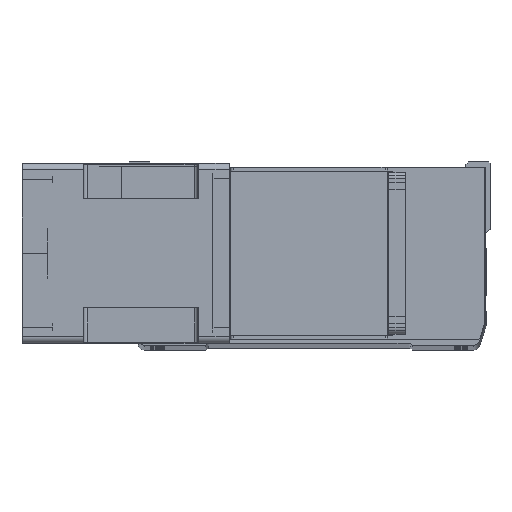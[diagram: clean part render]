
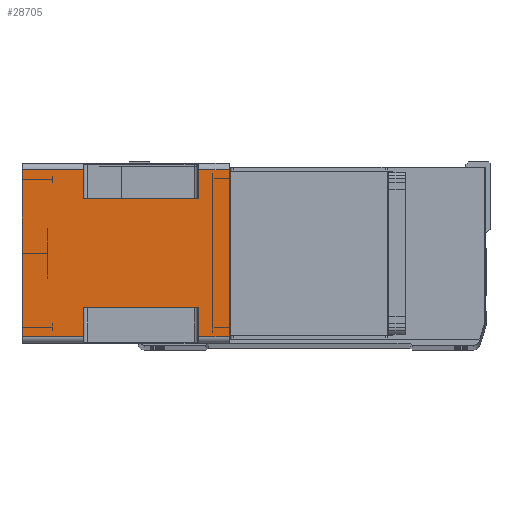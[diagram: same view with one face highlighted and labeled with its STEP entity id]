
A CAD part, top view. The second image highlights one B-rep face of the part: STEP entity #28705.
In plain terms, the highlighted planar face has unit normal (0, 0, 1) as drawn and (-1, 0, 0) by its records, which use the part's own axes.
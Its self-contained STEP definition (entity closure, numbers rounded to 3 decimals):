
#34 = EDGE_CURVE ( 'NONE', #45997, #17787, #4870, .T. ) ;
#88 = LINE ( 'NONE', #45881, #7906 ) ;
#259 = EDGE_CURVE ( 'NONE', #22364, #45997, #43636, .T. ) ;
#900 = CARTESIAN_POINT ( 'NONE',  ( -71., -66., -24.5 ) ) ;
#1049 = DIRECTION ( 'NONE',  ( 0., 0., 1. ) ) ;
#1589 = VECTOR ( 'NONE', #1049, 1000. ) ;
#2979 = FACE_OUTER_BOUND ( 'NONE', #44369, .T. ) ;
#3979 = CARTESIAN_POINT ( 'NONE',  ( -71., 43., -24.5 ) ) ;
#4165 = CARTESIAN_POINT ( 'NONE',  ( -71., 66., -164. ) ) ;
#4311 = CARTESIAN_POINT ( 'NONE',  ( -71., -66., -164. ) ) ;
#4870 = LINE ( 'NONE', #30519, #44712 ) ;
#5065 = VERTEX_POINT ( 'NONE', #37041 ) ;
#5089 = CARTESIAN_POINT ( 'NONE',  ( -71., 66., -164. ) ) ;
#5130 = VERTEX_POINT ( 'NONE', #8993 ) ;
#5201 = CARTESIAN_POINT ( 'NONE',  ( -71., -66., -164. ) ) ;
#6399 = ORIENTED_EDGE ( 'NONE', *, *, #24812, .T. ) ;
#6727 = EDGE_CURVE ( 'NONE', #16663, #28936, #28945, .T. ) ;
#7572 = CARTESIAN_POINT ( 'NONE',  ( -71., -66., -164. ) ) ;
#7627 = EDGE_CURVE ( 'NONE', #5065, #28936, #14464, .T. ) ;
#7759 = DIRECTION ( 'NONE',  ( 0., -1., 0. ) ) ;
#7766 = VECTOR ( 'NONE', #32670, 1000. ) ;
#7906 = VECTOR ( 'NONE', #42884, 1000. ) ;
#8072 = CARTESIAN_POINT ( 'NONE',  ( -71., -66., 0. ) ) ;
#8596 = LINE ( 'NONE', #5201, #39448 ) ;
#8993 = CARTESIAN_POINT ( 'NONE',  ( -71., 66., -24.5 ) ) ;
#9147 = CARTESIAN_POINT ( 'NONE',  ( -71., -66., 0. ) ) ;
#9158 = DIRECTION ( 'NONE',  ( 0., 0., 1. ) ) ;
#9221 = ORIENTED_EDGE ( 'NONE', *, *, #24683, .F. ) ;
#9853 = CARTESIAN_POINT ( 'NONE',  ( -71., -66., -115.5 ) ) ;
#10218 = DIRECTION ( 'NONE',  ( 0., -1., 0. ) ) ;
#10332 = VECTOR ( 'NONE', #14467, 1000. ) ;
#10602 = EDGE_CURVE ( 'NONE', #16663, #36301, #88, .T. ) ;
#11106 = AXIS2_PLACEMENT_3D ( 'NONE', #4311, #22388, #18747 ) ;
#11214 = LINE ( 'NONE', #5089, #17391 ) ;
#11996 = CARTESIAN_POINT ( 'NONE',  ( -71., -66., -115.5 ) ) ;
#13294 = VERTEX_POINT ( 'NONE', #21232 ) ;
#14464 = LINE ( 'NONE', #4165, #1589 ) ;
#14467 = DIRECTION ( 'NONE',  ( 0., 0., -1. ) ) ;
#15196 = ORIENTED_EDGE ( 'NONE', *, *, #21221, .F. ) ;
#16032 = DIRECTION ( 'NONE',  ( 0., 1., 0. ) ) ;
#16153 = VERTEX_POINT ( 'NONE', #8072 ) ;
#16305 = VECTOR ( 'NONE', #10218, 1000. ) ;
#16663 = VERTEX_POINT ( 'NONE', #35254 ) ;
#17129 = LINE ( 'NONE', #900, #22201 ) ;
#17391 = VECTOR ( 'NONE', #9158, 1000. ) ;
#17787 = VERTEX_POINT ( 'NONE', #23670 ) ;
#18294 = ORIENTED_EDGE ( 'NONE', *, *, #24142, .T. ) ;
#18747 = DIRECTION ( 'NONE',  ( 0., -1., 0. ) ) ;
#19401 = VECTOR ( 'NONE', #29756, 1000. ) ;
#19693 = ORIENTED_EDGE ( 'NONE', *, *, #10602, .F. ) ;
#20476 = DIRECTION ( 'NONE',  ( 0., 0., 1. ) ) ;
#21221 = EDGE_CURVE ( 'NONE', #5130, #34282, #11214, .T. ) ;
#21232 = CARTESIAN_POINT ( 'NONE',  ( -71., -43., -24.5 ) ) ;
#22201 = VECTOR ( 'NONE', #26158, 1000. ) ;
#22364 = VERTEX_POINT ( 'NONE', #25951 ) ;
#22388 = DIRECTION ( 'NONE',  ( -1., 0., 0. ) ) ;
#23274 = DIRECTION ( 'NONE',  ( 0., -1., 0. ) ) ;
#23670 = CARTESIAN_POINT ( 'NONE',  ( -71., -43., -115.5 ) ) ;
#23839 = LINE ( 'NONE', #39725, #10332 ) ;
#24110 = CARTESIAN_POINT ( 'NONE',  ( -71., -66., -164. ) ) ;
#24142 = EDGE_CURVE ( 'NONE', #13294, #28416, #17129, .T. ) ;
#24173 = LINE ( 'NONE', #9147, #16305 ) ;
#24683 = EDGE_CURVE ( 'NONE', #13294, #17787, #23839, .T. ) ;
#24812 = EDGE_CURVE ( 'NONE', #5130, #36301, #31653, .T. ) ;
#25951 = CARTESIAN_POINT ( 'NONE',  ( -71., -66., -164. ) ) ;
#26158 = DIRECTION ( 'NONE',  ( 0., -1., 0. ) ) ;
#26781 = ORIENTED_EDGE ( 'NONE', *, *, #43279, .T. ) ;
#28416 = VERTEX_POINT ( 'NONE', #45248 ) ;
#28705 = ADVANCED_FACE ( 'NONE', ( #2979 ), #40223, .T. ) ;
#28936 = VERTEX_POINT ( 'NONE', #31715 ) ;
#28945 = LINE ( 'NONE', #11996, #19401 ) ;
#29756 = DIRECTION ( 'NONE',  ( 0., 1., 0. ) ) ;
#30519 = CARTESIAN_POINT ( 'NONE',  ( -71., -43., -115.5 ) ) ;
#31653 = LINE ( 'NONE', #3979, #36636 ) ;
#31715 = CARTESIAN_POINT ( 'NONE',  ( -71., 66., -115.5 ) ) ;
#32670 = DIRECTION ( 'NONE',  ( 0., 0., 1. ) ) ;
#32749 = ORIENTED_EDGE ( 'NONE', *, *, #6727, .T. ) ;
#33604 = LINE ( 'NONE', #7572, #7766 ) ;
#34282 = VERTEX_POINT ( 'NONE', #38485 ) ;
#34665 = ORIENTED_EDGE ( 'NONE', *, *, #45591, .T. ) ;
#34680 = EDGE_CURVE ( 'NONE', #34282, #16153, #24173, .T. ) ;
#35254 = CARTESIAN_POINT ( 'NONE',  ( -71., 43., -115.5 ) ) ;
#36301 = VERTEX_POINT ( 'NONE', #39353 ) ;
#36636 = VECTOR ( 'NONE', #7759, 1000. ) ;
#36828 = ORIENTED_EDGE ( 'NONE', *, *, #34680, .F. ) ;
#37041 = CARTESIAN_POINT ( 'NONE',  ( -71., 66., -164. ) ) ;
#37990 = ORIENTED_EDGE ( 'NONE', *, *, #259, .T. ) ;
#38485 = CARTESIAN_POINT ( 'NONE',  ( -71., 66., 0. ) ) ;
#39353 = CARTESIAN_POINT ( 'NONE',  ( -71., 43., -24.5 ) ) ;
#39448 = VECTOR ( 'NONE', #23274, 1000. ) ;
#39725 = CARTESIAN_POINT ( 'NONE',  ( -71., -43., -164. ) ) ;
#40223 = PLANE ( 'NONE',  #11106 ) ;
#40945 = ORIENTED_EDGE ( 'NONE', *, *, #34, .T. ) ;
#42884 = DIRECTION ( 'NONE',  ( 0., 0., 1. ) ) ;
#43279 = EDGE_CURVE ( 'NONE', #5065, #22364, #8596, .T. ) ;
#43394 = ORIENTED_EDGE ( 'NONE', *, *, #7627, .F. ) ;
#43636 = LINE ( 'NONE', #24110, #45884 ) ;
#44369 = EDGE_LOOP ( 'NONE', ( #37990, #40945, #9221, #18294, #34665, #36828, #15196, #6399, #19693, #32749, #43394, #26781 ) ) ;
#44712 = VECTOR ( 'NONE', #16032, 1000. ) ;
#45248 = CARTESIAN_POINT ( 'NONE',  ( -71., -66., -24.5 ) ) ;
#45591 = EDGE_CURVE ( 'NONE', #28416, #16153, #33604, .T. ) ;
#45881 = CARTESIAN_POINT ( 'NONE',  ( -71., 43., -164. ) ) ;
#45884 = VECTOR ( 'NONE', #20476, 1000. ) ;
#45997 = VERTEX_POINT ( 'NONE', #9853 ) ;
